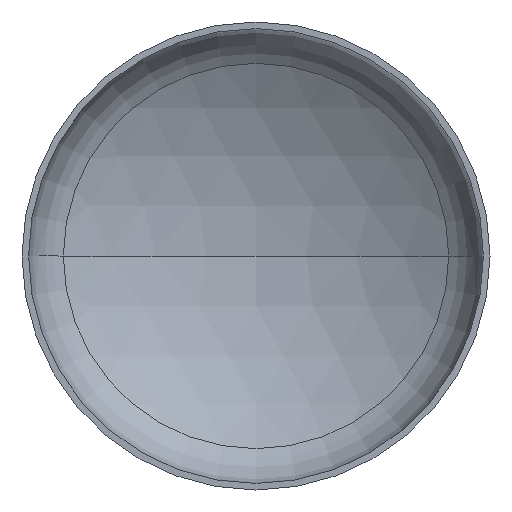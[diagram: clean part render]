
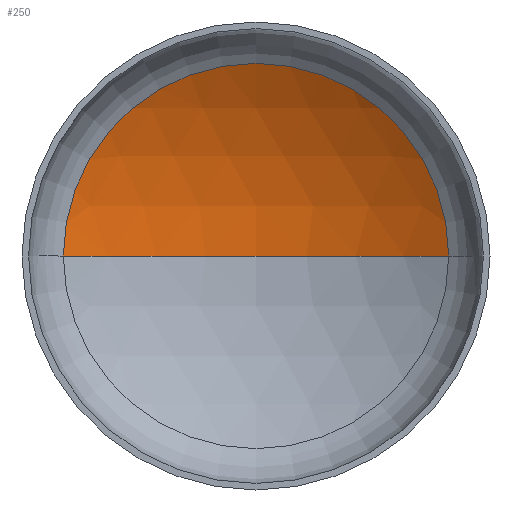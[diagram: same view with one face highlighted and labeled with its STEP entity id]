
A CAD part, front view. The second image highlights one B-rep face of the part: STEP entity #250.
In plain terms, the highlighted spherical face has radius 2560 mm.
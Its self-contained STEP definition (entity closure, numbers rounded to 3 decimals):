
#8 = VERTEX_POINT ( 'NONE', #356 ) ;
#32 = AXIS2_PLACEMENT_3D ( 'NONE', #180, #63, #55 ) ;
#41 = VERTEX_POINT ( 'NONE', #239 ) ;
#46 = AXIS2_PLACEMENT_3D ( 'NONE', #50, #79, #75 ) ;
#50 = CARTESIAN_POINT ( 'NONE',  ( 0., -1635.014, 0. ) ) ;
#53 = AXIS2_PLACEMENT_3D ( 'NONE', #276, #235, #234 ) ;
#55 = DIRECTION ( 'NONE',  ( -1., 0., 0. ) ) ;
#58 = AXIS2_PLACEMENT_3D ( 'NONE', #209, #258, #255 ) ;
#63 = DIRECTION ( 'NONE',  ( 0., 0., -1. ) ) ;
#64 = FACE_OUTER_BOUND ( 'NONE', #108, .T. ) ;
#75 = DIRECTION ( 'NONE',  ( 1., 0., 0. ) ) ;
#79 = DIRECTION ( 'NONE',  ( 0., 0., 1. ) ) ;
#108 = EDGE_LOOP ( 'NONE', ( #116, #361, #377 ) ) ;
#115 = VERTEX_POINT ( 'NONE', #293 ) ;
#116 = ORIENTED_EDGE ( 'NONE', *, *, #216, .F. ) ;
#174 = SPHERICAL_SURFACE ( 'NONE', #32, 2560. ) ;
#180 = CARTESIAN_POINT ( 'NONE',  ( 0., -1635.014, 0. ) ) ;
#182 = EDGE_CURVE ( 'NONE', #41, #115, #256, .T. ) ;
#196 = EDGE_CURVE ( 'NONE', #8, #41, #379, .T. ) ;
#209 = CARTESIAN_POINT ( 'NONE',  ( 0., 560.172, 0. ) ) ;
#216 = EDGE_CURVE ( 'NONE', #8, #115, #374, .T. ) ;
#234 = DIRECTION ( 'NONE',  ( -1., 0., 0. ) ) ;
#235 = DIRECTION ( 'NONE',  ( 0., 0., -1. ) ) ;
#239 = CARTESIAN_POINT ( 'NONE',  ( 1317.101, 560.172, 0. ) ) ;
#250 = ADVANCED_FACE ( 'NONE', ( #64 ), #174, .F. ) ;
#255 = DIRECTION ( 'NONE',  ( 1., 0., 0. ) ) ;
#256 = CIRCLE ( 'NONE', #58, 1317.101 ) ;
#258 = DIRECTION ( 'NONE',  ( 0., -1., 0. ) ) ;
#276 = CARTESIAN_POINT ( 'NONE',  ( 0., -1635.014, 0. ) ) ;
#293 = CARTESIAN_POINT ( 'NONE',  ( -1317.101, 560.172, 0. ) ) ;
#356 = CARTESIAN_POINT ( 'NONE',  ( 0., 924.986, 0. ) ) ;
#361 = ORIENTED_EDGE ( 'NONE', *, *, #196, .T. ) ;
#374 = CIRCLE ( 'NONE', #46, 2560. ) ;
#377 = ORIENTED_EDGE ( 'NONE', *, *, #182, .T. ) ;
#379 = CIRCLE ( 'NONE', #53, 2560. ) ;
